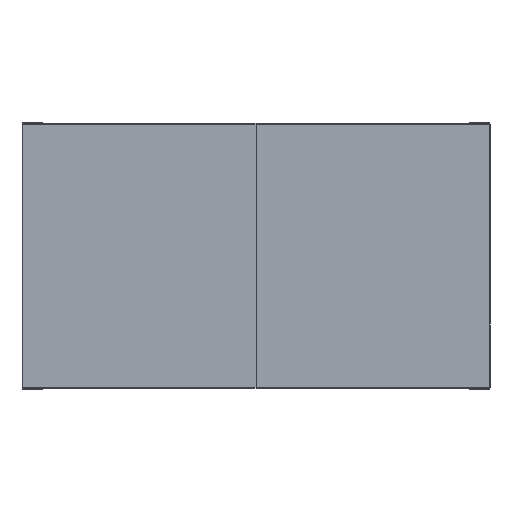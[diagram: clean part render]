
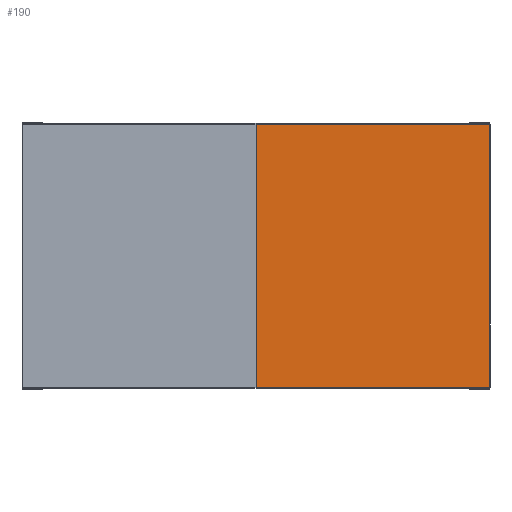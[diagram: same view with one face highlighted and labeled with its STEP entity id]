
A CAD part, top view. The second image highlights one B-rep face of the part: STEP entity #190.
In plain terms, the highlighted planar face has unit normal (0, 0, 1).
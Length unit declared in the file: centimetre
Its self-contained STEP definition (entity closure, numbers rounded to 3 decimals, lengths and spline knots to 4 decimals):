
#190=ADVANCED_FACE($,(#384),#2428,.T.);
#384=FACE_OUTER_BOUND($,#578,.T.);
#578=EDGE_LOOP($,(#1128,#1129,#1130,#1131));
#1128=ORIENTED_EDGE($,*,*,#1813,.F.);
#1129=ORIENTED_EDGE($,*,*,#1816,.F.);
#1130=ORIENTED_EDGE($,*,*,#1823,.F.);
#1131=ORIENTED_EDGE($,*,*,#1821,.F.);
#1813=EDGE_CURVE($,#2197,#2201,#2703,.T.);
#1816=EDGE_CURVE($,#2199,#2197,#2706,.T.);
#1821=EDGE_CURVE($,#2201,#2202,#2711,.T.);
#1823=EDGE_CURVE($,#2202,#2199,#2713,.T.);
#2197=VERTEX_POINT($,#5175);
#2199=VERTEX_POINT($,#5177);
#2201=VERTEX_POINT($,#5179);
#2202=VERTEX_POINT($,#5180);
#2428=PLANE($,#3118);
#2703=B_SPLINE_CURVE_WITH_KNOTS($,1,(#5118,#5119),.UNSPECIFIED.,.F.,.F.,
(2,2),(-1790.,-995.),.UNSPECIFIED.);
#2706=B_SPLINE_CURVE_WITH_KNOTS($,1,(#5124,#5125),.UNSPECIFIED.,.F.,.F.,
(2,2),(-896.,0.),.UNSPECIFIED.);
#2711=B_SPLINE_CURVE_WITH_KNOTS($,3,(#5140,#5141,#5142,#5143),.UNSPECIFIED.,
.F.,.F.,(4,4),(0.,89.6),.UNSPECIFIED.);
#2713=B_SPLINE_CURVE_WITH_KNOTS($,1,(#5146,#5147),.UNSPECIFIED.,.F.,.F.,
(2,2),(-795.,0.),.UNSPECIFIED.);
#3118=AXIS2_PLACEMENT_3D($,#5168,#3295,$);
#3295=DIRECTION($,(0.,0.,1.));
#5118=CARTESIAN_POINT($,(-154.45,171.3,75.0514));
#5119=CARTESIAN_POINT($,(-233.95,171.3,75.0514));
#5124=CARTESIAN_POINT($,(-154.45,260.9,75.0514));
#5125=CARTESIAN_POINT($,(-154.45,171.3,75.0514));
#5140=CARTESIAN_POINT($,(-233.95,171.3,75.0514));
#5141=CARTESIAN_POINT($,(-233.95,201.1667,75.0514));
#5142=CARTESIAN_POINT($,(-233.95,231.0333,75.0514));
#5143=CARTESIAN_POINT($,(-233.95,260.9,75.0514));
#5146=CARTESIAN_POINT($,(-233.95,260.9,75.0514));
#5147=CARTESIAN_POINT($,(-154.45,260.9,75.0514));
#5168=CARTESIAN_POINT($,(-233.95,260.9,75.0514));
#5175=CARTESIAN_POINT($,(-154.45,171.3,75.0514));
#5177=CARTESIAN_POINT($,(-154.45,260.9,75.0514));
#5179=CARTESIAN_POINT($,(-233.95,171.3,75.0514));
#5180=CARTESIAN_POINT($,(-233.95,260.9,75.0514));
